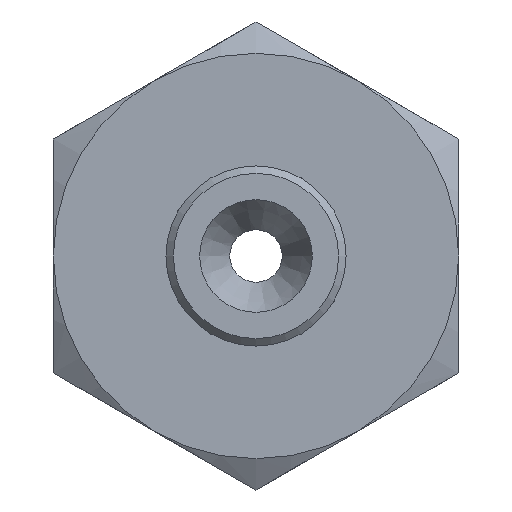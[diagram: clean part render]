
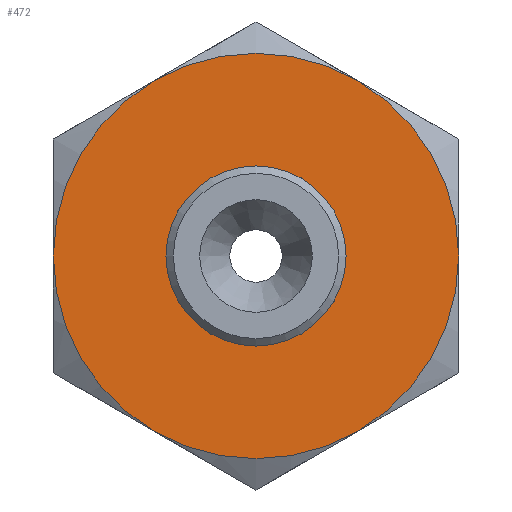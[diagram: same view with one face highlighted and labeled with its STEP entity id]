
A CAD part, front view. The second image highlights one B-rep face of the part: STEP entity #472.
In plain terms, the highlighted planar face has unit normal (0, -1, 0).
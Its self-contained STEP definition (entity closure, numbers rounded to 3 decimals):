
#57=FACE_BOUND('',#133,.T.);
#68=PLANE('',#550);
#98=FACE_OUTER_BOUND('',#132,.T.);
#132=EDGE_LOOP('',(#401,#402,#403,#404,#405,#406));
#133=EDGE_LOOP('',(#407));
#169=CIRCLE('',#512,6.);
#173=CIRCLE('',#520,13.5);
#174=CIRCLE('',#522,13.5);
#175=CIRCLE('',#524,13.5);
#176=CIRCLE('',#526,13.5);
#177=CIRCLE('',#528,13.5);
#178=CIRCLE('',#530,13.5);
#194=VERTEX_POINT('',#706);
#199=VERTEX_POINT('',#722);
#200=VERTEX_POINT('',#726);
#202=VERTEX_POINT('',#733);
#204=VERTEX_POINT('',#743);
#206=VERTEX_POINT('',#756);
#208=VERTEX_POINT('',#766);
#236=EDGE_CURVE('',#194,#194,#169,.T.);
#244=EDGE_CURVE('',#199,#200,#173,.T.);
#247=EDGE_CURVE('',#202,#199,#174,.T.);
#250=EDGE_CURVE('',#204,#202,#175,.T.);
#252=EDGE_CURVE('',#206,#204,#176,.T.);
#255=EDGE_CURVE('',#208,#206,#177,.T.);
#258=EDGE_CURVE('',#200,#208,#178,.T.);
#401=ORIENTED_EDGE('',*,*,#258,.T.);
#402=ORIENTED_EDGE('',*,*,#255,.T.);
#403=ORIENTED_EDGE('',*,*,#252,.T.);
#404=ORIENTED_EDGE('',*,*,#250,.T.);
#405=ORIENTED_EDGE('',*,*,#247,.T.);
#406=ORIENTED_EDGE('',*,*,#244,.T.);
#407=ORIENTED_EDGE('',*,*,#236,.T.);
#472=ADVANCED_FACE('',(#98,#57),#68,.F.);
#512=AXIS2_PLACEMENT_3D('',#708,#590,#591);
#520=AXIS2_PLACEMENT_3D('',#730,#608,#609);
#522=AXIS2_PLACEMENT_3D('',#740,#612,#613);
#524=AXIS2_PLACEMENT_3D('',#750,#616,#617);
#526=AXIS2_PLACEMENT_3D('',#757,#620,#621);
#528=AXIS2_PLACEMENT_3D('',#767,#624,#625);
#530=AXIS2_PLACEMENT_3D('',#776,#628,#629);
#550=AXIS2_PLACEMENT_3D('',#853,#674,#675);
#590=DIRECTION('center_axis',(0.,1.,0.));
#591=DIRECTION('ref_axis',(1.,0.,0.));
#608=DIRECTION('center_axis',(0.,-1.,0.));
#609=DIRECTION('ref_axis',(-1.,0.,0.));
#612=DIRECTION('center_axis',(0.,-1.,0.));
#613=DIRECTION('ref_axis',(-1.,0.,0.));
#616=DIRECTION('center_axis',(0.,-1.,0.));
#617=DIRECTION('ref_axis',(-1.,0.,0.));
#620=DIRECTION('center_axis',(0.,-1.,0.));
#621=DIRECTION('ref_axis',(-1.,0.,0.));
#624=DIRECTION('center_axis',(0.,-1.,0.));
#625=DIRECTION('ref_axis',(-1.,0.,0.));
#628=DIRECTION('center_axis',(0.,-1.,0.));
#629=DIRECTION('ref_axis',(-1.,0.,0.));
#674=DIRECTION('center_axis',(0.,1.,0.));
#675=DIRECTION('ref_axis',(0.,0.,1.));
#706=CARTESIAN_POINT('',(-4.592,-5.093,0.));
#708=CARTESIAN_POINT('Origin',(1.408,-5.093,0.));
#722=CARTESIAN_POINT('',(-12.092,-5.093,0.));
#726=CARTESIAN_POINT('',(-5.342,-5.093,-11.691));
#730=CARTESIAN_POINT('Origin',(1.408,-5.093,0.));
#733=CARTESIAN_POINT('',(-5.342,-5.093,11.691));
#740=CARTESIAN_POINT('Origin',(1.408,-5.093,0.));
#743=CARTESIAN_POINT('',(8.158,-5.093,11.691));
#750=CARTESIAN_POINT('Origin',(1.408,-5.093,0.));
#756=CARTESIAN_POINT('',(14.908,-5.093,0.));
#757=CARTESIAN_POINT('Origin',(1.408,-5.093,0.));
#766=CARTESIAN_POINT('',(8.158,-5.093,-11.691));
#767=CARTESIAN_POINT('Origin',(1.408,-5.093,0.));
#776=CARTESIAN_POINT('Origin',(1.408,-5.093,0.));
#853=CARTESIAN_POINT('Origin',(1.408,-5.093,0.));
